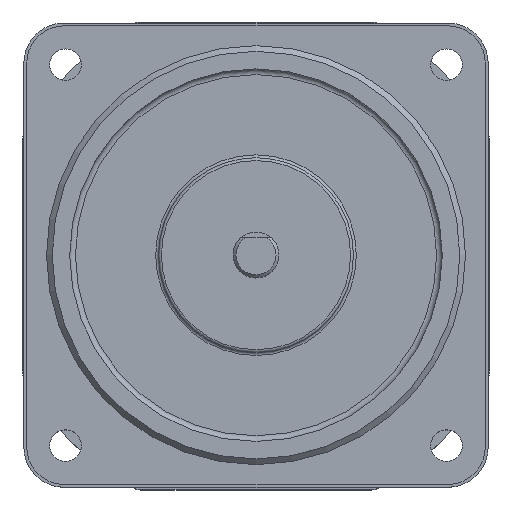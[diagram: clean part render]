
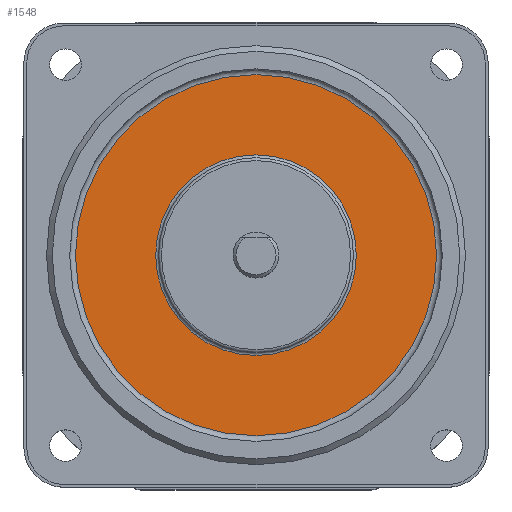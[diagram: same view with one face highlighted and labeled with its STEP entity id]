
A CAD part, top view. The second image highlights one B-rep face of the part: STEP entity #1548.
In plain terms, the highlighted planar face has unit normal (0, 0, 1).
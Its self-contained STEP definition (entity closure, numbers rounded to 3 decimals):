
#22 = DIRECTION ( 'NONE',  ( 1., 0., 0. ) ) ;
#38 = DIRECTION ( 'NONE',  ( 0., 0., -1. ) ) ;
#315 = VERTEX_POINT ( 'NONE', #724 ) ;
#634 = CARTESIAN_POINT ( 'NONE',  ( 0., 0., -3.3 ) ) ;
#680 = VERTEX_POINT ( 'NONE', #1810 ) ;
#724 = CARTESIAN_POINT ( 'NONE',  ( 31.5, 0., -3.3 ) ) ;
#830 = ORIENTED_EDGE ( 'NONE', *, *, #1389, .T. ) ;
#946 = AXIS2_PLACEMENT_3D ( 'NONE', #634, #3962, #3078 ) ;
#1389 = EDGE_CURVE ( 'NONE', #315, #315, #3162, .T. ) ;
#1489 = PLANE ( 'NONE',  #3492 ) ;
#1548 = ADVANCED_FACE ( 'NONE', ( #2637, #1570 ), #1489, .T. ) ;
#1557 = EDGE_LOOP ( 'NONE', ( #1800 ) ) ;
#1570 = FACE_BOUND ( 'NONE', #1557, .T. ) ;
#1800 = ORIENTED_EDGE ( 'NONE', *, *, #2333, .T. ) ;
#1810 = CARTESIAN_POINT ( 'NONE',  ( 17.5, 0., -3.3 ) ) ;
#2035 = CARTESIAN_POINT ( 'NONE',  ( 0., 0., -3.3 ) ) ;
#2037 = CARTESIAN_POINT ( 'NONE',  ( 0., 0., -3.3 ) ) ;
#2107 = DIRECTION ( 'NONE',  ( 0., 0., 1. ) ) ;
#2283 = AXIS2_PLACEMENT_3D ( 'NONE', #2035, #38, #22 ) ;
#2333 = EDGE_CURVE ( 'NONE', #680, #680, #3610, .T. ) ;
#2368 = DIRECTION ( 'NONE',  ( 1., 0., 0. ) ) ;
#2637 = FACE_OUTER_BOUND ( 'NONE', #3402, .T. ) ;
#3078 = DIRECTION ( 'NONE',  ( 1., 0., 0. ) ) ;
#3162 = CIRCLE ( 'NONE', #946, 31.5 ) ;
#3402 = EDGE_LOOP ( 'NONE', ( #830 ) ) ;
#3492 = AXIS2_PLACEMENT_3D ( 'NONE', #2037, #2107, #2368 ) ;
#3610 = CIRCLE ( 'NONE', #2283, 17.5 ) ;
#3962 = DIRECTION ( 'NONE',  ( 0., 0., 1. ) ) ;
